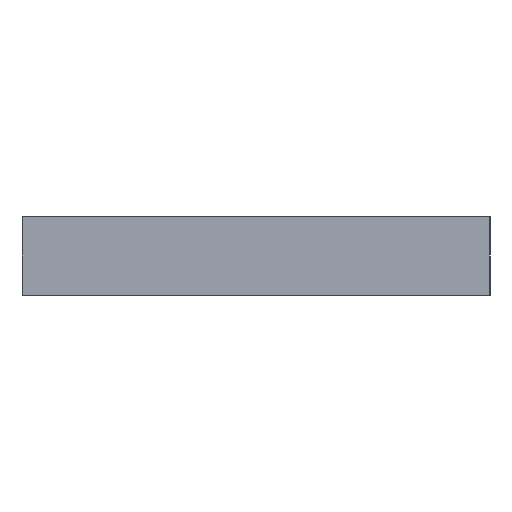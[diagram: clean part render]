
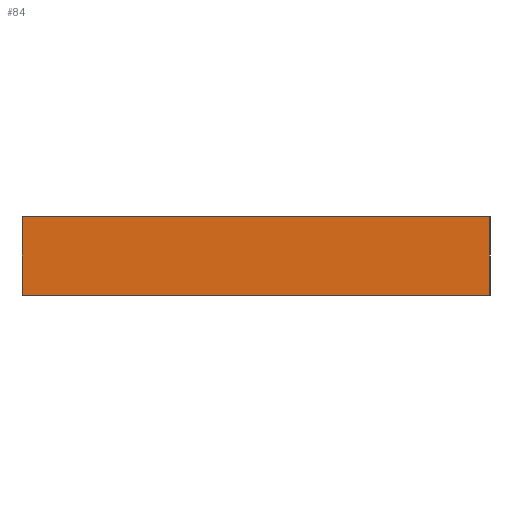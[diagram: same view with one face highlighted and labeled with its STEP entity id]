
A CAD part, left-side view. The second image highlights one B-rep face of the part: STEP entity #84.
In plain terms, the highlighted planar face has unit normal (-1, 0, 0).
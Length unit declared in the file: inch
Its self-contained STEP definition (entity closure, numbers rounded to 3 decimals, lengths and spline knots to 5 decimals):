
#81 = ORIENTED_EDGE ( 'NONE', *, *, #361, .T. ) ;
#82 = ORIENTED_EDGE ( 'NONE', *, *, #2084, .F. ) ;
#84 = ADVANCED_FACE ( 'NONE', ( #738 ), #719, .F. ) ;
#85 = ORIENTED_EDGE ( 'NONE', *, *, #86, .T. ) ;
#86 = EDGE_CURVE ( 'NONE', #106, #362, #714, .T. ) ;
#87 = EDGE_LOOP ( 'NONE', ( #81, #82, #90, #85 ) ) ;
#90 = ORIENTED_EDGE ( 'NONE', *, *, #111, .F. ) ;
#106 = VERTEX_POINT ( 'NONE', #744 ) ;
#111 = EDGE_CURVE ( 'NONE', #106, #1915, #797, .T. ) ;
#180 = VERTEX_POINT ( 'NONE', #917 ) ;
#361 = EDGE_CURVE ( 'NONE', #362, #180, #1434, .T. ) ;
#362 = VERTEX_POINT ( 'NONE', #1430 ) ;
#713 = CARTESIAN_POINT ( 'NONE',  ( 0., 0.75, 0.25 ) ) ;
#714 = LINE ( 'NONE', #713, #770 ) ;
#715 = DIRECTION ( 'NONE',  ( 0., 0., -1. ) ) ;
#716 = DIRECTION ( 'NONE',  ( 1., 0., 0. ) ) ;
#717 = CARTESIAN_POINT ( 'NONE',  ( 0., -0.75, 0.25 ) ) ;
#718 = AXIS2_PLACEMENT_3D ( 'NONE', #717, #716, #715 ) ;
#719 = PLANE ( 'NONE',  #718 ) ;
#738 = FACE_OUTER_BOUND ( 'NONE', #87, .T. ) ;
#744 = CARTESIAN_POINT ( 'NONE',  ( 0., 0.75, 0.25 ) ) ;
#769 = DIRECTION ( 'NONE',  ( 0., 0., -1. ) ) ;
#770 = VECTOR ( 'NONE', #769, 39.37008 ) ;
#794 = DIRECTION ( 'NONE',  ( 0., -1., 0. ) ) ;
#795 = VECTOR ( 'NONE', #794, 39.37008 ) ;
#796 = CARTESIAN_POINT ( 'NONE',  ( 0., -0.75, 0.25 ) ) ;
#797 = LINE ( 'NONE', #796, #795 ) ;
#917 = CARTESIAN_POINT ( 'NONE',  ( 0., -0.75, 0. ) ) ;
#1430 = CARTESIAN_POINT ( 'NONE',  ( 0., 0.75, 0. ) ) ;
#1431 = DIRECTION ( 'NONE',  ( 0., -1., 0. ) ) ;
#1432 = VECTOR ( 'NONE', #1431, 39.37008 ) ;
#1433 = CARTESIAN_POINT ( 'NONE',  ( 0., -0.75, 0. ) ) ;
#1434 = LINE ( 'NONE', #1433, #1432 ) ;
#1852 = DIRECTION ( 'NONE',  ( 0., 0., -1. ) ) ;
#1853 = VECTOR ( 'NONE', #1852, 39.37008 ) ;
#1854 = CARTESIAN_POINT ( 'NONE',  ( 0., -0.75, 0.25 ) ) ;
#1855 = LINE ( 'NONE', #1854, #1853 ) ;
#1856 = CARTESIAN_POINT ( 'NONE',  ( 0., -0.75, 0.25 ) ) ;
#1915 = VERTEX_POINT ( 'NONE', #1856 ) ;
#2084 = EDGE_CURVE ( 'NONE', #1915, #180, #1855, .T. ) ;
